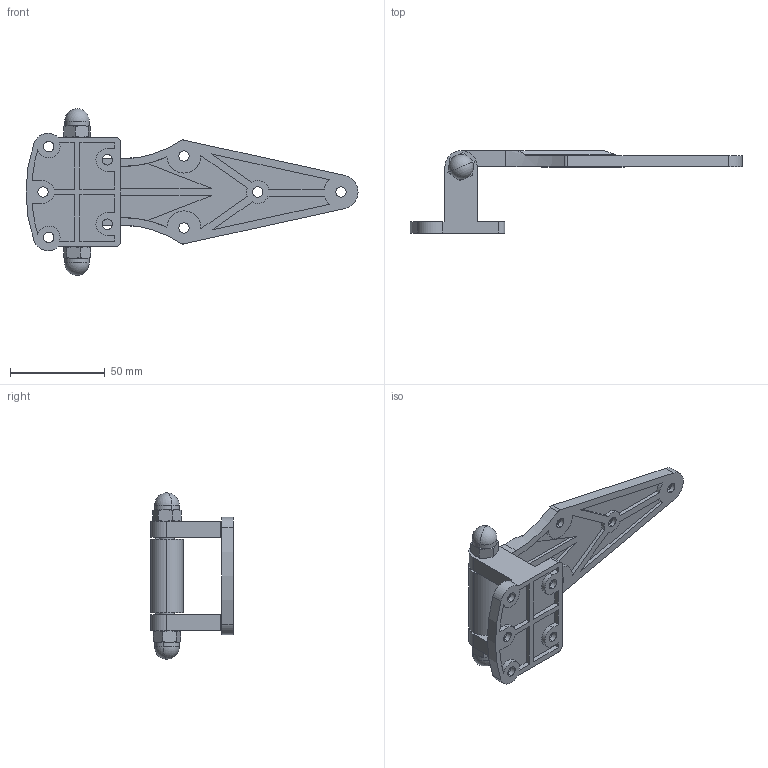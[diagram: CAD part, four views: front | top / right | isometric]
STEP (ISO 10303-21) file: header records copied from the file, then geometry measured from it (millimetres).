
FILE_DESCRIPTION (( 'STEP AP214' ), '1' );
FILE_NAME ('SK2-053-35.STEP', '2020-04-14T02:50:22', ( 'admin' ), ( 'Microsoft' ), 'SwSTEP 2.0', 'SolidWorks 2018', '' );
FILE_SCHEMA (( 'AUTOMOTIVE_DESIGN' ));
Length unit declared in the file: millimetre
Products named in the file (5): lid nut gb_GB_FASTENER_NUT_LN M8-C; 2-053-35-F3; 2-053-35-F2; 2-053-35-F1; SK2-053-35
Assembly tree (5 placements, depth 2):
  SK2-053-35
    2-053-35-F1
    2-053-35-F2
    2-053-35-F3
    lid nut gb_GB_FASTENER_NUT_LN M8-C  x2
Bounding box: 175.5 x 43.5 x 88 mm (x, y, z)
Volume: 60795.4 mm3; surface area: 33460.3 mm2
Topology: 5 solids, 5 shells, 249 faces, 613 edges, 377 vertices
Faces by surface type: cylinder 98, plane 93, cone 54, sphere 4
Entity records: 6701 total; most frequent: CARTESIAN_POINT 1223, DIRECTION 1145, ORIENTED_EDGE 1060, EDGE_CURVE 530, AXIS2_PLACEMENT_3D 422, VERTEX_POINT 332, LINE 301, VECTOR 301
